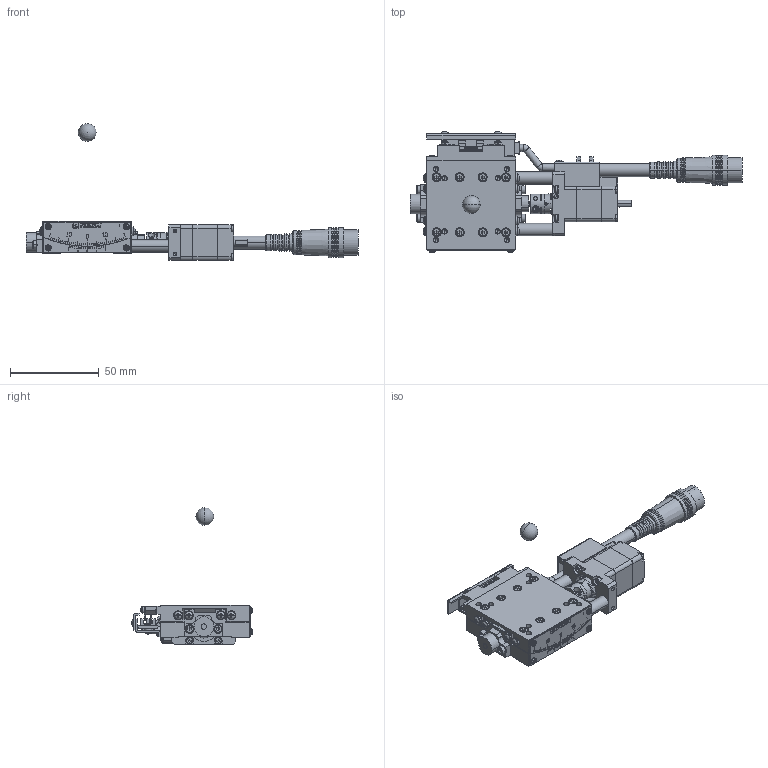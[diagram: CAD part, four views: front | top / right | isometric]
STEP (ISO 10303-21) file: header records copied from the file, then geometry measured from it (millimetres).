
FILE_DESCRIPTION (( 'STEP AP203' ), '1' );
FILE_NAME ('SA05A-R2T01.STEP', '2019-12-02T07:27:27', ( '' ), ( '' ), 'SwSTEP 2.0', 'SolidWorks 2018', '' );
FILE_SCHEMA (( 'CONFIG_CONTROL_DESIGN' ));
Length unit declared in the file: millimetre
Products named in the file (8): base; base-Part-4; table; SA05A-R2T01; rotation center; base-Part-3; base-Part-2; base-Part-1
Assembly tree (6 placements, depth 3):
  base-Part-4
  SA05A-R2T01
    base
      base-Part-1
      base-Part-2
      base-Part-3
    rotation center
    table
Bounding box: 187 x 67.96 x 77 mm (x, y, z)
Volume: 76275.3 mm3; surface area: 39123.5 mm2
Topology: 5 solids, 5 shells, 2487 faces, 6267 edges, 3888 vertices
Faces by surface type: plane 1546, cylinder 549, cone 202, torus 134, sphere 50, bspline 6
Entity records: 77069 total; most frequent: CARTESIAN_POINT 15758, DIRECTION 13064, ORIENTED_EDGE 12360, EDGE_CURVE 6180, AXIS2_PLACEMENT_3D 4615, VERTEX_POINT 3881, LINE 3834, VECTOR 3834
